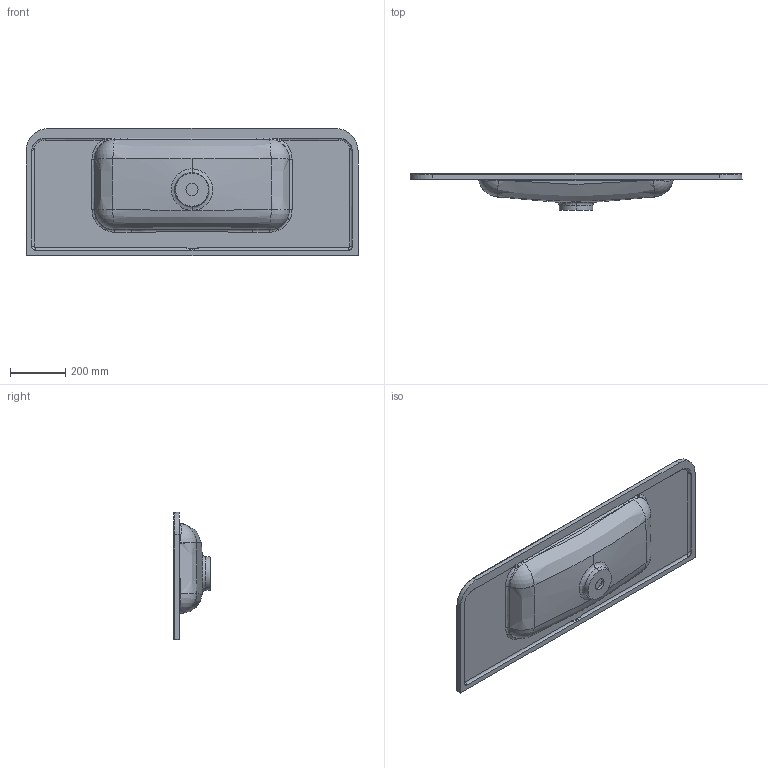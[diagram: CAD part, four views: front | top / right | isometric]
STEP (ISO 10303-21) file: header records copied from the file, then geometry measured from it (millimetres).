
FILE_DESCRIPTION (( 'STEP AP203' ), '1' );
FILE_NAME ('K7115121.stp', '2026-04-13T12:41:14', ( '' ), ( '' ), 'SwSTEP 2.0', 'SolidWorks 2022', '' );
FILE_SCHEMA (( 'CONFIG_CONTROL_DESIGN' ));
Length unit declared in the file: millimetre
Products named in the file (1): K7115121
Bounding box: 1202 x 133 x 461 mm (x, y, z)
Volume: 9150337.5 mm3; surface area: 1360596.6 mm2
Topology: 2 solids, 2 shells, 159 faces, 367 edges, 212 vertices
Faces by surface type: bspline 51, cylinder 34, plane 21, torus 20, cone 20, sphere 13
Entity records: 10929 total; most frequent: CARTESIAN_POINT 7610, ORIENTED_EDGE 720, DIRECTION 637, EDGE_CURVE 360, AXIS2_PLACEMENT_3D 269, VERTEX_POINT 210, EDGE_LOOP 166, CIRCLE 160
